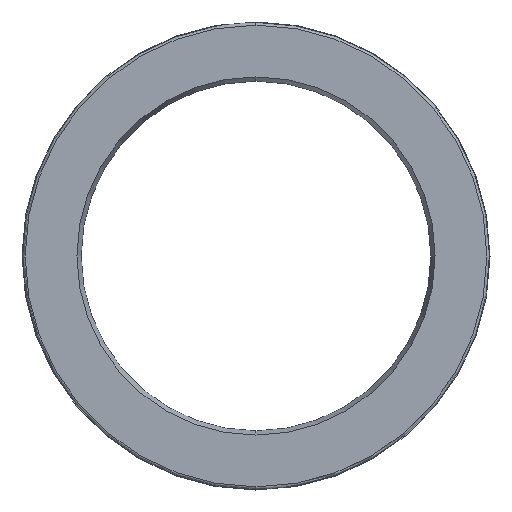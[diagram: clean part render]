
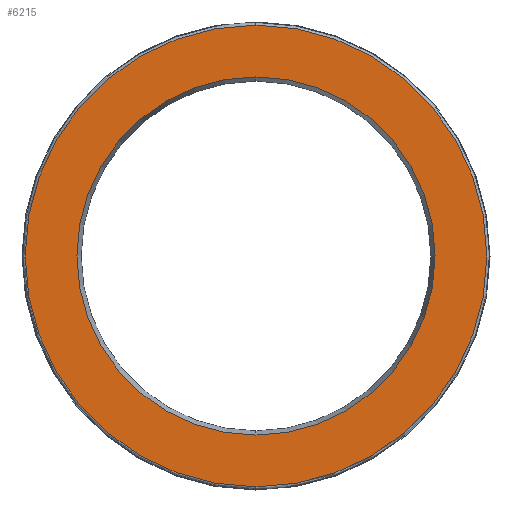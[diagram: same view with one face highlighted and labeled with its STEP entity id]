
A CAD part, left-side view. The second image highlights one B-rep face of the part: STEP entity #6215.
In plain terms, the highlighted planar face has unit normal (-1, 0, 0).
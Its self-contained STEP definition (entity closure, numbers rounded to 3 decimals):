
#47 = CIRCLE ( 'NONE', #6489, 19.8 ) ;
#1931 = DIRECTION ( 'NONE',  ( 0., 0., -1. ) ) ;
#2195 = CARTESIAN_POINT ( 'NONE',  ( -6.706, 1.473, 16.463 ) ) ;
#2895 = AXIS2_PLACEMENT_3D ( 'NONE', #6533, #14474, #12103 ) ;
#4512 = EDGE_LOOP ( 'NONE', ( #26277, #5069 ) ) ;
#4975 = EDGE_LOOP ( 'NONE', ( #7897, #8237 ) ) ;
#5069 = ORIENTED_EDGE ( 'NONE', *, *, #11072, .T. ) ;
#5090 = EDGE_CURVE ( 'NONE', #16585, #22982, #6732, .T. ) ;
#6215 = ADVANCED_FACE ( 'NONE', ( #16564, #22271 ), #22412, .F. ) ;
#6243 = CARTESIAN_POINT ( 'NONE',  ( -6.706, 1.473, -3.337 ) ) ;
#6489 = AXIS2_PLACEMENT_3D ( 'NONE', #18252, #12333, #1931 ) ;
#6533 = CARTESIAN_POINT ( 'NONE',  ( -6.706, 21.473, -3.337 ) ) ;
#6732 = CIRCLE ( 'NONE', #22778, 19.8 ) ;
#7174 = CARTESIAN_POINT ( 'NONE',  ( -6.706, 1.473, 12.027 ) ) ;
#7897 = ORIENTED_EDGE ( 'NONE', *, *, #5090, .T. ) ;
#7914 = CIRCLE ( 'NONE', #11308, 15.364 ) ;
#8159 = CARTESIAN_POINT ( 'NONE',  ( -6.706, 1.473, -3.337 ) ) ;
#8237 = ORIENTED_EDGE ( 'NONE', *, *, #12764, .T. ) ;
#8294 = EDGE_CURVE ( 'NONE', #20211, #12800, #9315, .T. ) ;
#9315 = CIRCLE ( 'NONE', #14779, 15.364 ) ;
#9840 = CARTESIAN_POINT ( 'NONE',  ( -6.706, 1.473, -18.701 ) ) ;
#10546 = DIRECTION ( 'NONE',  ( 1., 0., 0. ) ) ;
#11072 = EDGE_CURVE ( 'NONE', #12800, #20211, #7914, .T. ) ;
#11308 = AXIS2_PLACEMENT_3D ( 'NONE', #22026, #10546, #16439 ) ;
#12103 = DIRECTION ( 'NONE',  ( 0., 0., -1. ) ) ;
#12333 = DIRECTION ( 'NONE',  ( -1., 0., 0. ) ) ;
#12764 = EDGE_CURVE ( 'NONE', #22982, #16585, #47, .T. ) ;
#12800 = VERTEX_POINT ( 'NONE', #9840 ) ;
#14474 = DIRECTION ( 'NONE',  ( 1., 0., 0. ) ) ;
#14779 = AXIS2_PLACEMENT_3D ( 'NONE', #6243, #20388, #22246 ) ;
#16439 = DIRECTION ( 'NONE',  ( 0., 0., -1. ) ) ;
#16564 = FACE_BOUND ( 'NONE', #4512, .T. ) ;
#16585 = VERTEX_POINT ( 'NONE', #22038 ) ;
#18252 = CARTESIAN_POINT ( 'NONE',  ( -6.706, 1.473, -3.337 ) ) ;
#20211 = VERTEX_POINT ( 'NONE', #7174 ) ;
#20388 = DIRECTION ( 'NONE',  ( 1., 0., 0. ) ) ;
#21637 = DIRECTION ( 'NONE',  ( 0., 0., -1. ) ) ;
#22026 = CARTESIAN_POINT ( 'NONE',  ( -6.706, 1.473, -3.337 ) ) ;
#22038 = CARTESIAN_POINT ( 'NONE',  ( -6.706, 1.473, -23.137 ) ) ;
#22145 = DIRECTION ( 'NONE',  ( -1., 0., 0. ) ) ;
#22246 = DIRECTION ( 'NONE',  ( 0., 0., -1. ) ) ;
#22271 = FACE_OUTER_BOUND ( 'NONE', #4975, .T. ) ;
#22412 = PLANE ( 'NONE',  #2895 ) ;
#22778 = AXIS2_PLACEMENT_3D ( 'NONE', #8159, #22145, #21637 ) ;
#22982 = VERTEX_POINT ( 'NONE', #2195 ) ;
#26277 = ORIENTED_EDGE ( 'NONE', *, *, #8294, .T. ) ;
